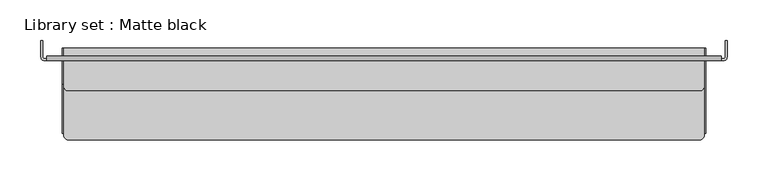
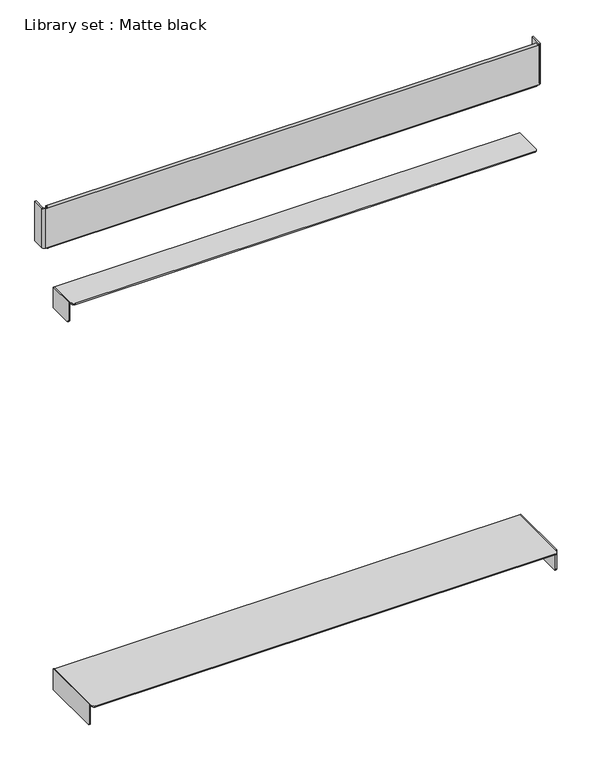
"""IFC4 building model written with IfcOpenShell, lengths in millimetres: proxy geometry, Library set : Matte black."""

import ifcopenshell
import ifcopenshell.guid

model = None  # the IFC model being written
_history = None  # IfcOwnerHistory: only IFC2X3 demands one
_inside = {}  # id of a spatial element -> (the spatial element, [elements in it])
_under = {}  # id of a project, library or spatial element -> (it, [spatial elements below it])
_declared = {}  # id of a project -> (the project, [libraries it declares])
_typed = {}  # id of a type object -> (the type object, [elements of that type])
_made_of = {}  # id of a material, layer set ... -> (it, [elements and type objects made of it])


def new_model(schema):
    """Start an empty IFC model of exactly this schema.

    Asked for "IFC4X3", IfcOpenShell would pick the latest addendum, in which some entities
    have other attributes; the version numbers below select the first issue.
    IFC2X3 requires an IfcOwnerHistory on every rooted entity: one is made here for all.
    """
    global model, _history
    if schema == "IFC4X3":
        model = ifcopenshell.file(schema_version=(4, 3, 0, 0))
    else:
        model = ifcopenshell.file(schema=schema)
    _inside.clear()
    _under.clear()
    _declared.clear()
    _typed.clear()
    _made_of.clear()
    _history = None
    if model.schema == "IFC2X3":
        org = make("IfcOrganization", Name="unknown")
        user = make(
            "IfcPersonAndOrganization",
            ThePerson=make("IfcPerson", FamilyName="unknown"),
            TheOrganization=org,
        )
        app = make(
            "IfcApplication",
            ApplicationDeveloper=org,
            Version="unknown",
            ApplicationFullName="unknown",
            ApplicationIdentifier="unknown",
        )
        _history = make(
            "IfcOwnerHistory",
            OwningUser=user,
            OwningApplication=app,
            ChangeAction="ADDED",
            CreationDate=0,
        )
    return model


def make(cls, **values):
    """One entity of the class cls with the attributes given. An attribute that is None is left unset."""
    return model.create_entity(
        cls, **{name: value for name, value in values.items() if value is not None}
    )


def rooted(cls, **values):
    """An entity with a GlobalId (a new one), such as an element, a storey or a relation."""
    return make(cls, GlobalId=ifcopenshell.guid.new(), OwnerHistory=_history, **values)


def si_unit(unit_type, name, prefix=None):
    """IfcSIUnit, for example si_unit("LENGTHUNIT", "METRE", prefix="MILLI")."""
    return make("IfcSIUnit", UnitType=unit_type, Prefix=prefix, Name=name)


def assignment(units):
    """IfcUnitAssignment: the units of a project."""
    return None if units is None else make("IfcUnitAssignment", Units=units)


def point(xyz):
    """IfcCartesianPoint."""
    return None if xyz is None else make("IfcCartesianPoint", Coordinates=xyz)


def direction(xyz):
    """IfcDirection."""
    return None if xyz is None else make("IfcDirection", DirectionRatios=xyz)


def frame(location, z_axis=None, x_axis=None):
    """IfcAxis2Placement3D, a coordinate frame: its origin and axes. An axis left out is left unset."""
    return make(
        "IfcAxis2Placement3D",
        Location=point(location),
        Axis=direction(z_axis),
        RefDirection=direction(x_axis),
    )


def frame_2d(location, x_axis=None):
    """IfcAxis2Placement2D, a coordinate frame in the plane: its origin and x axis."""
    return make(
        "IfcAxis2Placement2D", Location=point(location), RefDirection=direction(x_axis)
    )


def origin():
    """The frame at (0, 0, 0) with its axes left unset."""
    return frame((0.0, 0.0, 0.0))


def place(relative_to, where):
    """IfcLocalPlacement: puts the frame where relative to a parent placement (None: the world)."""
    return make(
        "IfcLocalPlacement", PlacementRelTo=relative_to, RelativePlacement=where
    )


def context(
    kind, dimensions, precision=None, world=None, true_north=None, identifier=None
):
    """IfcGeometricRepresentationContext, for example the 3D "Model" context."""
    return make(
        "IfcGeometricRepresentationContext",
        ContextIdentifier=identifier,
        ContextType=kind,
        CoordinateSpaceDimension=dimensions,
        Precision=precision,
        WorldCoordinateSystem=world,
        TrueNorth=true_north,
    )


def project(units=None, contexts=None):
    """IfcProject with its units and contexts."""
    return rooted(
        "IfcProject",
        Name="project",
        RepresentationContexts=contexts,
        UnitsInContext=assignment(units),
    )


def spatial(cls, under=None, at=None, **own):
    """A site, building, storey or space (cls), placed at a placement, below another one or the project."""
    s = rooted(cls, ObjectPlacement=at, **own)
    if under is not None:
        _under.setdefault(under.id(), (under, []))[1].append(s)
    return s


def polyline(points):
    """IfcPolyline through the points."""
    return make("IfcPolyline", Points=[point(p) for p in points])


def circle_curve(where, radius):
    """IfcCircle in the frame where."""
    return make("IfcCircle", Position=where, Radius=radius)


def trimmed(basis, trim1, trim2, sense, master):
    """IfcTrimmedCurve: the piece of a basis curve between two trims."""
    return make(
        "IfcTrimmedCurve",
        BasisCurve=basis,
        Trim1=trim1,
        Trim2=trim2,
        SenseAgreement=sense,
        MasterRepresentation=master,
    )


def segment(curve, same_sense, transition):
    """IfcCompositeCurveSegment."""
    return make(
        "IfcCompositeCurveSegment",
        Transition=transition,
        SameSense=same_sense,
        ParentCurve=curve,
    )


def composite_curve(segments, self_intersect=None):
    """IfcCompositeCurve: segments joined end to end."""
    return make("IfcCompositeCurve", Segments=segments, SelfIntersect=self_intersect)


def outline(outer, holes=None, kind="AREA"):
    """IfcArbitraryClosedProfileDef: a profile drawn as a closed curve; with holes, ...WithVoids."""
    if holes is None:
        return make("IfcArbitraryClosedProfileDef", ProfileType=kind, OuterCurve=outer)
    return make(
        "IfcArbitraryProfileDefWithVoids",
        ProfileType=kind,
        OuterCurve=outer,
        InnerCurves=holes,
    )


def extrude(swept, where, along, depth):
    """IfcExtrudedAreaSolid: the profile swept, set in the frame where, extruded along a direction by depth."""
    return make(
        "IfcExtrudedAreaSolid",
        SweptArea=swept,
        Position=where,
        ExtrudedDirection=direction(along),
        Depth=depth,
    )


def shape(context_of_items, identifier, shape_type, items):
    """IfcShapeRepresentation: the items that make up one representation, for example the "Body"."""
    return make(
        "IfcShapeRepresentation",
        ContextOfItems=context_of_items,
        RepresentationIdentifier=identifier,
        RepresentationType=shape_type,
        Items=items,
    )


def source(mapping_origin, context_of_items, identifier, shape_type, items):
    """IfcRepresentationMap: a shape defined once, which mapped items show again and again."""
    return make(
        "IfcRepresentationMap",
        MappingOrigin=mapping_origin,
        MappedRepresentation=shape(context_of_items, identifier, shape_type, items),
    )


def transform(
    local_origin,
    x_axis=None,
    y_axis=None,
    z_axis=None,
    scale=None,
    scale2=None,
    scale3=None,
    uniform=True,
):
    """IfcCartesianTransformationOperator3D, or its non-uniform kind. x_axis, y_axis, z_axis: its Axis1, 2, 3."""
    if uniform:
        return make(
            "IfcCartesianTransformationOperator3D",
            Axis1=direction(x_axis),
            Axis2=direction(y_axis),
            LocalOrigin=point(local_origin),
            Scale=scale,
            Axis3=direction(z_axis),
        )
    return make(
        "IfcCartesianTransformationOperator3DnonUniform",
        Axis1=direction(x_axis),
        Axis2=direction(y_axis),
        LocalOrigin=point(local_origin),
        Scale=scale,
        Axis3=direction(z_axis),
        Scale2=scale2,
        Scale3=scale3,
    )


def mapped(mapping_source, mapping_target):
    """IfcMappedItem: shows the shape of a source again, moved by a transform."""
    return make(
        "IfcMappedItem", MappingSource=mapping_source, MappingTarget=mapping_target
    )


def made_of(thing, what):
    """Note that an element or type object is made of a material, layer set ...; save() writes the relation."""
    if what is not None:
        _made_of.setdefault(what.id(), (what, []))[1].append(thing)
    return thing


def element(
    cls,
    number,
    at=None,
    inside=None,
    cuts=None,
    type_object=None,
    material=None,
    context=None,
    identifier="Body",
    shape_type=None,
    held_by="IfcProductDefinitionShape",
    body=None,
    shapes=None,
    **own,
):
    """One element of the class cls, such as IfcWall. Its Tag is "e" and its number.

    at: its placement. inside: the storey or other place that contains it. cuts: it is an
    opening in that element (IfcRelVoidsElement). A single representation is given by context,
    identifier, shape_type and body (its items); several are given by shapes. held_by: the class
    of the entity that holds the representations. save() writes the other relations.
    """
    e = rooted(cls, Tag="e%d" % number, ObjectPlacement=at, **own)
    if body is not None:
        shapes = [shape(context, identifier, shape_type, body)]
    if shapes is not None:
        e.Representation = make(held_by, Representations=shapes)
    if inside is not None:
        _inside.setdefault(inside.id(), (inside, []))[1].append(e)
    if cuts is not None:
        rooted(
            "IfcRelVoidsElement", RelatingBuildingElement=cuts, RelatedOpeningElement=e
        )
    if type_object is not None:
        _typed.setdefault(type_object.id(), (type_object, []))[1].append(e)
    return made_of(e, material)


def aggregate(whole, parts):
    """IfcRelAggregates: a whole, such as a stair, and the parts it consists of."""
    return rooted("IfcRelAggregates", RelatingObject=whole, RelatedObjects=parts)


def save(model, path):
    """Write the relations noted so far, then the file.

    IfcRelAggregates (storeys below a building ...), IfcRelContainedInSpatialStructure (elements
    in a storey), IfcRelDefinesByType, IfcRelAssociatesMaterial and IfcRelDeclares: one each for
    every whole, place, type object, material and project.
    """
    for whole, parts in _under.values():
        aggregate(whole, parts)
    for where, things in _inside.values():
        rooted(
            "IfcRelContainedInSpatialStructure",
            RelatedElements=things,
            RelatingStructure=where,
        )
    for kind, things in _typed.values():
        rooted("IfcRelDefinesByType", RelatedObjects=things, RelatingType=kind)
    for what, things in _made_of.values():
        rooted("IfcRelAssociatesMaterial", RelatedObjects=things, RelatingMaterial=what)
    for by, libraries in _declared.values():
        rooted("IfcRelDeclares", RelatingContext=by, RelatedDefinitions=libraries)
    model.write(path)


def plane_surface(at):
    """IfcPlane: the flat surface through the origin of the frame at, square to its z axis."""
    return make("IfcPlane", Position=at)


def cylinder_surface(at, radius):
    """IfcCylindricalSurface: all points at the distance radius from the z axis of the frame at."""
    return make("IfcCylindricalSurface", Position=at, Radius=radius)


def revolved_surface(curve, axis_point, axis_direction):
    """IfcSurfaceOfRevolution: the curve turned about the line through axis_point along axis_direction."""
    return make(
        "IfcSurfaceOfRevolution",
        SweptCurve=make("IfcArbitraryOpenProfileDef", ProfileType="CURVE", Curve=curve),
        AxisPosition=make("IfcAxis1Placement", Location=point(axis_point), Axis=direction(axis_direction)),
    )


def advanced_brep(points, edges, surfaces, faces):
    """IfcAdvancedBrep: a solid bounded by faces that lie on surfaces and meet in shared edges.

    An edge is (start, end): straight between two places in points (the first is 0);
    or (start, end, curve); or (start, end, curve, False) where it runs against its curve.
    A face is (place in surfaces, loops), or (place, loops, False) where it looks against
    its surface's normal. A loop lists edges by number (the first is 1), with a minus sign
    where the edge is run from its end to its start. The first loop is the outer one.
    """
    corners = [point(p) for p in points]
    vertices = [make("IfcVertexPoint", VertexGeometry=c) for c in corners]
    made = []
    for start, end, *more in edges:
        made.append(
            make(
                "IfcEdgeCurve",
                EdgeStart=vertices[start],
                EdgeEnd=vertices[end],
                EdgeGeometry=more[0] if more else make("IfcPolyline", Points=[corners[start], corners[end]]),
                SameSense=more[1] if len(more) > 1 else True,
            )
        )
    hull = []
    for where, loops, *sense in faces:
        bounds = []
        for j, loop in enumerate(loops):
            ring = [make("IfcOrientedEdge", EdgeElement=made[abs(k) - 1], Orientation=k > 0) for k in loop]
            bounds.append(
                make(
                    "IfcFaceOuterBound" if j == 0 else "IfcFaceBound",
                    Bound=make("IfcEdgeLoop", EdgeList=ring),
                    Orientation=True,
                )
            )
        hull.append(make("IfcAdvancedFace", Bounds=bounds, FaceSurface=surfaces[where], SameSense=sense[0] if sense else True))
    return make("IfcAdvancedBrep", Outer=make("IfcClosedShell", CfsFaces=hull))


def library_set_matte_black_280bab07(model_context):
    return source(origin(), model_context, "Body", "SolidModel", [
        advanced_brep(
        [(-412.0, -18.0, 1533.5), (-412.0, -15.0, 1533.5), (-412.0, -15.0, 1526.0), (-412.0, -20.0, 1526.0), (-412.0, -17.9891282, 1526.0), (-412.0, -20.0, 1596.0), (-412.0, -15.0, 1596.0), (-412.0, -15.0, 1588.5), (-412.0, -18.0, 1588.5), (-412.0, -17.9891282, 1596.0), (412.0, -18.0, 1588.5), (412.0, -15.0, 1588.5), (412.0, -15.0, 1596.0), (412.0, -20.0, 1596.0), (412.0, -17.9891282, 1596.0), (412.0, -20.0, 1526.0), (412.0, -15.0, 1526.0), (412.0, -15.0, 1533.5), (412.0, -18.0, 1533.5), (412.0, -17.9891282, 1526.0), (415.0, -18.0, 1596.0), (415.0, -18.0, 1526.0), (-415.0, -18.0, 1526.0), (-415.0, -18.0, 1596.0), (415.0, -20.0, 1526.0), (415.0, -20.0, 1596.0), (-415.0, -20.0, 1596.0), (-415.0, -20.0, 1526.0), (-419.0, -15.9891282, 1596.0), (-417.0, -15.9891282, 1596.0), (-417.0, 4.0, 1596.0), (-419.0, 4.0, 1596.0), (419.0, -15.9891282, 1596.0), (419.0, 4.0, 1596.0), (417.0, 4.0, 1596.0), (417.0, -15.9891282, 1596.0), (-419.0, -15.9891282, 1526.0), (-419.0, 4.0, 1526.0), (-417.0, 4.0, 1526.0), (-417.0, -15.9891282, 1526.0), (419.0, -15.9891282, 1526.0), (417.0, -15.9891282, 1526.0), (417.0, 4.0, 1526.0), (419.0, 4.0, 1526.0)],
        [
            (0, 1),
            (1, 2),
            (2, 3, circle_curve(frame((-412.0, -17.5, 1526.0), z_axis=(-1.0, 0.0, 0.0), x_axis=(0.0, 0.0, 1.0)), 2.5)),
            (3, 4),
            (4, 0),
            (5, 6, circle_curve(frame((-412.0, -17.5, 1596.0), z_axis=(-1.0, 0.0, 0.0), x_axis=(0.0, 0.0, 1.0)), 2.5)),
            (6, 7),
            (7, 8),
            (8, 9),
            (9, 5),
            (10, 11),
            (11, 12),
            (12, 13, circle_curve(frame((412.0, -17.5, 1596.0), z_axis=(1.0, 0.0, 0.0), x_axis=(0.0, 0.0, 1.0)), 2.5)),
            (13, 14),
            (14, 10),
            (15, 16, circle_curve(frame((412.0, -17.5, 1526.0), z_axis=(1.0, 0.0, 0.0), x_axis=(0.0, 0.0, 1.0)), 2.5)),
            (16, 17),
            (17, 18),
            (18, 19),
            (19, 15),
            (8, 10),
            (14, 20),
            (20, 21),
            (21, 19),
            (18, 0),
            (4, 22),
            (22, 23),
            (23, 9),
            (17, 1),
            (16, 2),
            (15, 3),
            (15, 24),
            (24, 25),
            (25, 13),
            (13, 5),
            (5, 26),
            (26, 27),
            (27, 3),
            (12, 6),
            (11, 7),
            (28, 26, circle_curve(frame((-415.0, -15.9891282, 1596.0), z_axis=(0.0, 0.0, 1.0), x_axis=(1.0, 0.0, 0.0)), 4.0)),
            (23, 29, circle_curve(frame((-415.0, -15.9891282, 1596.0), z_axis=(0.0, 0.0, -1.0), x_axis=(1.0, 0.0, 0.0)), 2.0)),
            (29, 30),
            (30, 31),
            (31, 28),
            (32, 33),
            (33, 34),
            (34, 35),
            (35, 20, circle_curve(frame((415.0, -15.9891282, 1596.0), z_axis=(0.0, 0.0, -1.0), x_axis=(1.0, 0.0, 0.0)), 2.0)),
            (25, 32, circle_curve(frame((415.0, -15.9891282, 1596.0), z_axis=(0.0, 0.0, 1.0), x_axis=(1.0, 0.0, 0.0)), 4.0)),
            (36, 37),
            (37, 38),
            (38, 39),
            (39, 22, circle_curve(frame((-415.0, -15.9891282, 1526.0), z_axis=(0.0, 0.0, 1.0), x_axis=(1.0, 0.0, 0.0)), 2.0)),
            (27, 36, circle_curve(frame((-415.0, -15.9891282, 1526.0), z_axis=(0.0, 0.0, -1.0), x_axis=(1.0, 0.0, 0.0)), 4.0)),
            (40, 24, circle_curve(frame((415.0, -15.9891282, 1526.0), z_axis=(0.0, 0.0, -1.0), x_axis=(1.0, 0.0, 0.0)), 4.0)),
            (21, 41, circle_curve(frame((415.0, -15.9891282, 1526.0), z_axis=(0.0, 0.0, 1.0), x_axis=(1.0, 0.0, 0.0)), 2.0)),
            (41, 42),
            (42, 43),
            (43, 40),
            (28, 36),
            (39, 29),
            (38, 30),
            (37, 31),
            (32, 40),
            (43, 33),
            (42, 34),
            (41, 35),
        ],
        [
            plane_surface(frame((-412.0, 0.0, 1561.0), z_axis=(-1.0, 0.0, 0.0), x_axis=(0.0, -1.0, 0.0))),
            plane_surface(frame((412.0, 0.0, 1561.0), z_axis=(1.0, 0.0, 0.0), x_axis=(0.0, -1.0, 0.0))),
            plane_surface(frame((-412.0, -18.0, 1588.5), z_axis=(0.0, 1.0, 0.0), x_axis=(1.0, 0.0, 0.0))),
            plane_surface(frame((-412.0, -18.0, 1533.5), z_axis=(0.0, 0.0, 1.0), x_axis=(1.0, 0.0, 0.0))),
            plane_surface(frame((-412.0, -15.0, 1533.5), z_axis=(0.0, 1.0, 0.0), x_axis=(1.0, 0.0, 0.0))),
            cylinder_surface(frame((-412.0, -17.5, 1526.0), z_axis=(-1.0, 0.0, 0.0), x_axis=(0.0, 0.0, 1.0)), 2.5),
            plane_surface(frame((-412.0, -20.0, 1526.0), z_axis=(0.0, -1.0, 0.0), x_axis=(1.0, 0.0, 0.0))),
            cylinder_surface(frame((-412.0, -17.5, 1596.0), z_axis=(-1.0, 0.0, 0.0), x_axis=(0.0, 0.0, 1.0)), 2.5),
            plane_surface(frame((-412.0, -15.0, 1596.0), z_axis=(0.0, 1.0, 0.0), x_axis=(1.0, 0.0, 0.0))),
            plane_surface(frame((-412.0, -15.0, 1588.5), z_axis=(0.0, 0.0, -1.0), x_axis=(1.0, 0.0, 0.0))),
            plane_surface(frame((-411.0, -15.9891282, 1596.0), z_axis=(0.0, 0.0, 1.0), x_axis=(0.0, 1.0, 0.0))),
            plane_surface(frame((-411.0, -15.9891282, 1526.0), z_axis=(0.0, 0.0, -1.0), x_axis=(0.0, -1.0, 0.0))),
            cylinder_surface(frame((-415.0, -15.9891282, 1526.0), z_axis=(0.0, 0.0, 1.0), x_axis=(1.0, 0.0, 0.0)), 4.0),
            revolved_surface(polyline([(-413.0, -15.9891282, 1526.0), (-413.0, -15.9891282, 1596.0)]), (-415.0, -15.9891282, 1526.0), (0.0, 0.0, -1.0)),
            plane_surface(frame((-417.0, -15.9891282, 1596.0), z_axis=(1.0, 0.0, 0.0), x_axis=(0.0, 0.0, -1.0))),
            plane_surface(frame((-417.0, 4.0, 1596.0), z_axis=(0.0, 1.0, 0.0), x_axis=(0.0, 0.0, -1.0))),
            plane_surface(frame((-419.0, 4.0, 1596.0), z_axis=(-1.0, 0.0, 0.0), x_axis=(0.0, 0.0, -1.0))),
            plane_surface(frame((419.0, -15.9891282, 1596.0), z_axis=(1.0, 0.0, 0.0), x_axis=(0.0, 0.0, -1.0))),
            plane_surface(frame((419.0, 4.0, 1596.0), z_axis=(0.0, 1.0, 0.0), x_axis=(0.0, 0.0, -1.0))),
            plane_surface(frame((417.0, 4.0, 1596.0), z_axis=(-1.0, 0.0, 0.0), x_axis=(0.0, 0.0, -1.0))),
            revolved_surface(polyline([(417.0, -15.9891282, 1526.0), (417.0, -15.9891282, 1596.0)]), (415.0, -15.9891282, 0.0), (0.0, 0.0, -1.0)),
            cylinder_surface(frame((415.0, -15.9891282, 0.0), z_axis=(0.0, 0.0, 1.0), x_axis=(1.0, 0.0, 0.0)), 4.0),
        ],
        [
            (0, [[1, 2, 3, 4, 5]]),
            (0, [[6, 7, 8, 9, 10]]),
            (1, [[11, 12, 13, 14, 15]]),
            (1, [[16, 17, 18, 19, 20]]),
            (2, [[21, -15, 22, 23, 24, -19, 25, -5, 26, 27, 28, -9]]),
            (3, [[-1, -25, -18, 29]]),
            (4, [[-2, -29, -17, 30]]),
            (5, [[-3, -30, -16, 31]]),
            (6, [[-31, 32, 33, 34, 35, 36, 37, 38]]),
            (7, [[-6, -35, -13, 39]]),
            (8, [[-7, -39, -12, 40]]),
            (9, [[-8, -40, -11, -21]]),
            (10, [[41, -36, -10, -28, 42, 43, 44, 45]]),
            (10, [[46, 47, 48, 49, -22, -14, -34, 50]]),
            (11, [[51, 52, 53, 54, -26, -4, -38, 55]]),
            (11, [[56, -32, -20, -24, 57, 58, 59, 60]]),
            (12, [[-41, 61, -55, -37]]),
            (13, [[-42, -27, -54, 62]]),
            (14, [[-43, -62, -53, 63]]),
            (15, [[-44, -63, -52, 64]]),
            (16, [[-45, -64, -51, -61]]),
            (17, [[-46, 65, -60, 66]]),
            (18, [[-47, -66, -59, 67]]),
            (19, [[-48, -67, -58, 68]]),
            (20, [[-49, -68, -57, -23]]),
            (21, [[-50, -33, -56, -65]]),
        ],
    ),
        extrude(outline(composite_curve([segment(polyline([(-391.0, -51.9994783), (-391.0, -5.0000014), (391.0, -5.0000014), (391.0, -51.9994783)]), True, "CONTINUOUS"), segment(trimmed(circle_curve(frame_2d((386.0, -51.9994783)), 5.0), [point((391.0, -51.9994783))], [point((386.0, -56.9994783))], False, "CARTESIAN"), True, "CONTINUOUS"), segment(polyline([(386.0, -56.9994783), (-386.0, -56.9994783)]), True, "CONTINUOUS"), segment(trimmed(circle_curve(frame_2d((-386.0, -51.9994783)), 5.0), [point((-386.0, -56.9994783))], [point((-391.0, -51.9994783))], False, "CARTESIAN"), True, "CONTINUOUS")], self_intersect=False)), frame((0.0, 0.0, 1438.0), z_axis=(0.0, 0.0, 1.0), x_axis=(1.0, 0.0, 0.0)), (0.0, 0.0, 1.0), 2.0),
        extrude(outline(composite_curve([segment(polyline([(-49.0000014, 1408.0), (-49.0000014, 1440.0), (-5.0000014, 1440.0), (-5.0000014, 1403.0), (-44.0000014, 1403.0)]), True, "CONTINUOUS"), segment(trimmed(circle_curve(frame_2d((-44.0000014, 1408.0)), 5.0), [point((-44.0000014, 1403.0))], [point((-49.0000014, 1408.0))], False, "CARTESIAN"), True, "CONTINUOUS")], self_intersect=False)), frame((-393.0, 0.0, 0.0), z_axis=(1.0, 0.0, 0.0), x_axis=(0.0, 1.0, 0.0)), (0.0, 0.0, 1.0), 2.0),
        extrude(outline(composite_curve([segment(polyline([(-391.0, -111.9935506), (-391.0, -5.0000014), (391.0, -5.0000014), (391.0, -111.9935506)]), True, "CONTINUOUS"), segment(trimmed(circle_curve(frame_2d((386.0, -111.9935506)), 5.0), [point((391.0, -111.9935506))], [point((386.0, -116.9935506))], False, "CARTESIAN"), True, "CONTINUOUS"), segment(polyline([(386.0, -116.9935506), (-386.0, -116.9935506)]), True, "CONTINUOUS"), segment(trimmed(circle_curve(frame_2d((-386.0, -111.9935506)), 5.0), [point((-386.0, -116.9935506))], [point((-391.0, -111.9935506))], False, "CARTESIAN"), True, "CONTINUOUS")], self_intersect=False)), frame((0.0, 0.0, 759.0), z_axis=(0.0, 0.0, 1.0), x_axis=(1.0, 0.0, 0.0)), (0.0, 0.0, 1.0), 2.0),
        extrude(outline(composite_curve([segment(polyline([(-108.9935506, 727.0), (-108.9935506, 761.0), (-5.0000014, 761.0), (-5.0000014, 724.0), (-105.9935506, 724.0)]), True, "CONTINUOUS"), segment(trimmed(circle_curve(frame_2d((-105.9935506, 727.0)), 3.0), [point((-105.9935506, 724.0))], [point((-108.9935506, 727.0))], False, "CARTESIAN"), True, "CONTINUOUS")], self_intersect=False)), frame((391.0, 0.0, 0.0), z_axis=(1.0, 0.0, 0.0), x_axis=(0.0, 1.0, 0.0)), (0.0, 0.0, 1.0), 2.0),
        extrude(outline(composite_curve([segment(polyline([(-109.0000014, 727.0), (-109.0000014, 761.0), (-5.0000014, 761.0), (-5.0000014, 724.0), (-106.0000014, 724.0)]), True, "CONTINUOUS"), segment(trimmed(circle_curve(frame_2d((-106.0000014, 727.0)), 3.0), [point((-106.0000014, 724.0))], [point((-109.0000014, 727.0))], False, "CARTESIAN"), True, "CONTINUOUS")], self_intersect=False)), frame((-393.0, 0.0, 0.0), z_axis=(1.0, 0.0, 0.0), x_axis=(0.0, 1.0, 0.0)), (0.0, 0.0, 1.0), 2.0),
    ])


if __name__ == "__main__":
    model = new_model("IFC4")
    model_context = context("Model", 3, world=origin())
    ifc_project = project(units=[si_unit("LENGTHUNIT", "METRE", prefix="MILLI")], contexts=[model_context])
    site = spatial("IfcSite", under=ifc_project)
    building = spatial("IfcBuilding", under=site)
    placement = place(None, origin())
    library_set_matte_black_shape = library_set_matte_black_280bab07(model_context)
    element("IfcBuildingElementProxy", 1, Name="Library set : Matte black", ObjectType="Library set : Matte black", at=placement, inside=building, context=model_context, shape_type="MappedRepresentation", body=[
        mapped(library_set_matte_black_shape, transform((0.0, 0.0, 0.0), x_axis=(1.0, 0.0, 0.0), y_axis=(0.0, 1.0, 0.0), z_axis=(0.0, 0.0, 1.0))),
    ])
    save(model, "model.ifc")
